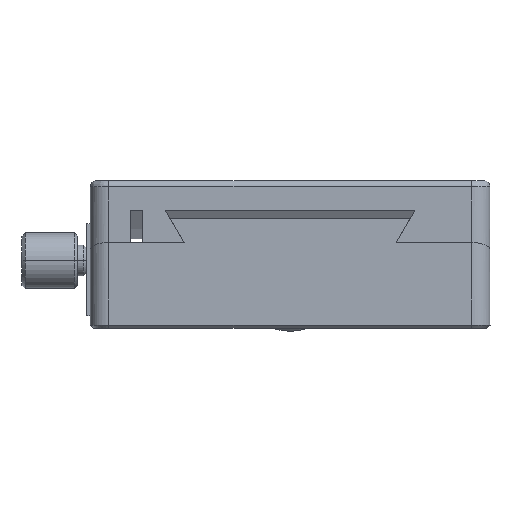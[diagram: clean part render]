
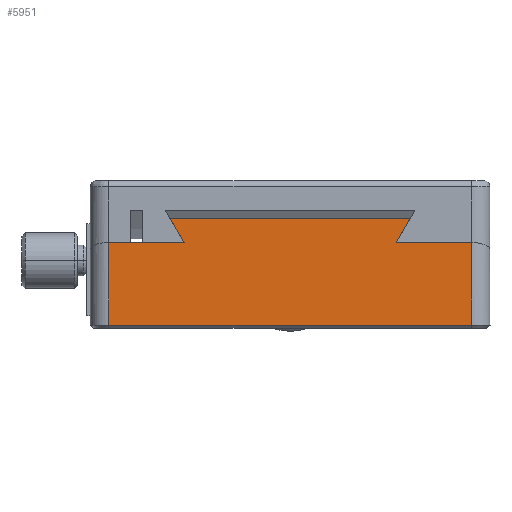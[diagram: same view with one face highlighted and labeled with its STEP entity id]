
A CAD part, left-side view. The second image highlights one B-rep face of the part: STEP entity #5951.
In plain terms, the highlighted planar face has unit normal (-1, 0, 0).
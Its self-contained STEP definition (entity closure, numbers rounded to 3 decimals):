
#1428 = LINE ( 'NONE', #17201, #12640 ) ;
#1497 = LINE ( 'NONE', #14989, #2927 ) ;
#1616 = VECTOR ( 'NONE', #18549, 1000. ) ;
#1807 = LINE ( 'NONE', #10321, #7558 ) ;
#2006 = CARTESIAN_POINT ( 'NONE',  ( -32.5, 65.537, 13.932 ) ) ;
#2566 = EDGE_CURVE ( 'NONE', #17845, #11017, #1497, .T. ) ;
#2927 = VECTOR ( 'NONE', #14670, 1000. ) ;
#3079 = DIRECTION ( 'NONE',  ( 0., 0., -1. ) ) ;
#3155 = CARTESIAN_POINT ( 'NONE',  ( -32.5, -29.5, 20. ) ) ;
#4450 = CARTESIAN_POINT ( 'NONE',  ( -32.5, 17.242, 13.932 ) ) ;
#4568 = EDGE_CURVE ( 'NONE', #20633, #14661, #1428, .T. ) ;
#4670 = EDGE_LOOP ( 'NONE', ( #4837, #16266, #14163, #15952, #15883, #22235, #22781, #11318 ) ) ;
#4837 = ORIENTED_EDGE ( 'NONE', *, *, #17154, .F. ) ;
#4871 = CARTESIAN_POINT ( 'NONE',  ( -32.5, -19.513, 17.864 ) ) ;
#5040 = CARTESIAN_POINT ( 'NONE',  ( -32.5, -19.513, 17.864 ) ) ;
#5055 = VERTEX_POINT ( 'NONE', #4871 ) ;
#5428 = VERTEX_POINT ( 'NONE', #9755 ) ;
#5578 = EDGE_CURVE ( 'NONE', #11017, #5428, #15024, .T. ) ;
#5811 = CARTESIAN_POINT ( 'NONE',  ( -32.5, 29.5, 0.5 ) ) ;
#5951 = ADVANCED_FACE ( 'NONE', ( #19637 ), #12379, .F. ) ;
#6322 = VECTOR ( 'NONE', #20006, 1000. ) ;
#6702 = DIRECTION ( 'NONE',  ( 0., -1., 0. ) ) ;
#6868 = EDGE_CURVE ( 'NONE', #20568, #5428, #22446, .T. ) ;
#7063 = LINE ( 'NONE', #2006, #1616 ) ;
#7160 = LINE ( 'NONE', #15241, #17789 ) ;
#7468 = LINE ( 'NONE', #5040, #6322 ) ;
#7558 = VECTOR ( 'NONE', #6702, 1000. ) ;
#7693 = CARTESIAN_POINT ( 'NONE',  ( -32.5, 19.513, 17.864 ) ) ;
#7740 = EDGE_CURVE ( 'NONE', #5055, #17845, #7468, .T. ) ;
#7833 = CARTESIAN_POINT ( 'NONE',  ( -32.5, -29.5, 13.932 ) ) ;
#8014 = DIRECTION ( 'NONE',  ( 0., 0.5, 0.866 ) ) ;
#9755 = CARTESIAN_POINT ( 'NONE',  ( -32.5, -29.5, 0.5 ) ) ;
#10065 = VECTOR ( 'NONE', #3079, 1000. ) ;
#10321 = CARTESIAN_POINT ( 'NONE',  ( -32.5, -32.5, 17.864 ) ) ;
#10464 = VERTEX_POINT ( 'NONE', #23435 ) ;
#10749 = DIRECTION ( 'NONE',  ( 1., 0., 0. ) ) ;
#10863 = CARTESIAN_POINT ( 'NONE',  ( -32.5, -32.5, 0.5 ) ) ;
#11017 = VERTEX_POINT ( 'NONE', #7833 ) ;
#11318 = ORIENTED_EDGE ( 'NONE', *, *, #4568, .F. ) ;
#12379 = PLANE ( 'NONE',  #21289 ) ;
#12640 = VECTOR ( 'NONE', #8014, 1000. ) ;
#13258 = VECTOR ( 'NONE', #16490, 1000. ) ;
#14163 = ORIENTED_EDGE ( 'NONE', *, *, #6868, .T. ) ;
#14217 = DIRECTION ( 'NONE',  ( 0., 0., -1. ) ) ;
#14661 = VERTEX_POINT ( 'NONE', #7693 ) ;
#14670 = DIRECTION ( 'NONE',  ( 0., -1., 0. ) ) ;
#14989 = CARTESIAN_POINT ( 'NONE',  ( -32.5, 65.537, 13.932 ) ) ;
#15024 = LINE ( 'NONE', #3155, #10065 ) ;
#15241 = CARTESIAN_POINT ( 'NONE',  ( -32.5, 29.5, 20. ) ) ;
#15442 = EDGE_CURVE ( 'NONE', #14661, #5055, #1807, .T. ) ;
#15883 = ORIENTED_EDGE ( 'NONE', *, *, #2566, .F. ) ;
#15952 = ORIENTED_EDGE ( 'NONE', *, *, #5578, .F. ) ;
#16266 = ORIENTED_EDGE ( 'NONE', *, *, #23852, .F. ) ;
#16490 = DIRECTION ( 'NONE',  ( 0., -1., 0. ) ) ;
#17154 = EDGE_CURVE ( 'NONE', #10464, #20633, #7063, .T. ) ;
#17201 = CARTESIAN_POINT ( 'NONE',  ( -32.5, 16.5, 12.646 ) ) ;
#17789 = VECTOR ( 'NONE', #22545, 1000. ) ;
#17845 = VERTEX_POINT ( 'NONE', #22694 ) ;
#18549 = DIRECTION ( 'NONE',  ( 0., -1., 0. ) ) ;
#19637 = FACE_OUTER_BOUND ( 'NONE', #4670, .T. ) ;
#20006 = DIRECTION ( 'NONE',  ( 0., 0.5, -0.866 ) ) ;
#20568 = VERTEX_POINT ( 'NONE', #5811 ) ;
#20633 = VERTEX_POINT ( 'NONE', #4450 ) ;
#21289 = AXIS2_PLACEMENT_3D ( 'NONE', #21771, #10749, #14217 ) ;
#21771 = CARTESIAN_POINT ( 'NONE',  ( -32.5, -32.5, 20. ) ) ;
#22235 = ORIENTED_EDGE ( 'NONE', *, *, #7740, .F. ) ;
#22446 = LINE ( 'NONE', #10863, #13258 ) ;
#22545 = DIRECTION ( 'NONE',  ( 0., 0., 1. ) ) ;
#22694 = CARTESIAN_POINT ( 'NONE',  ( -32.5, -17.242, 13.932 ) ) ;
#22781 = ORIENTED_EDGE ( 'NONE', *, *, #15442, .F. ) ;
#23435 = CARTESIAN_POINT ( 'NONE',  ( -32.5, 29.5, 13.932 ) ) ;
#23852 = EDGE_CURVE ( 'NONE', #20568, #10464, #7160, .T. ) ;
